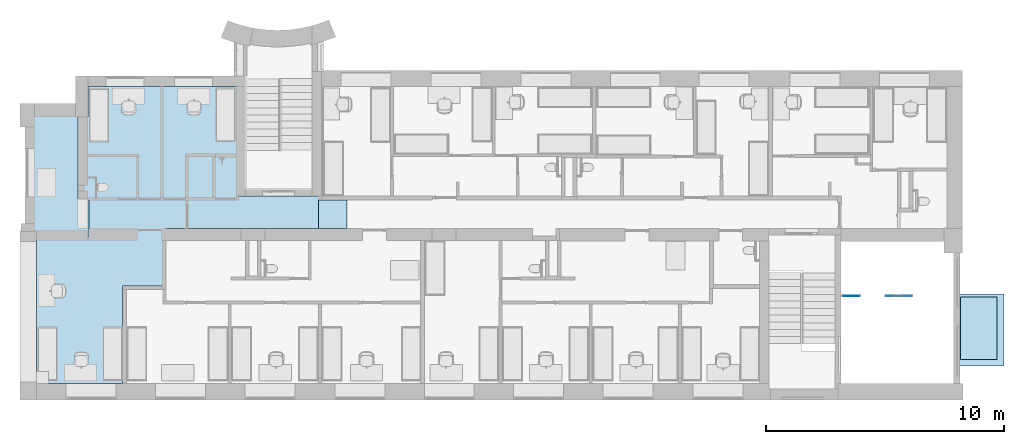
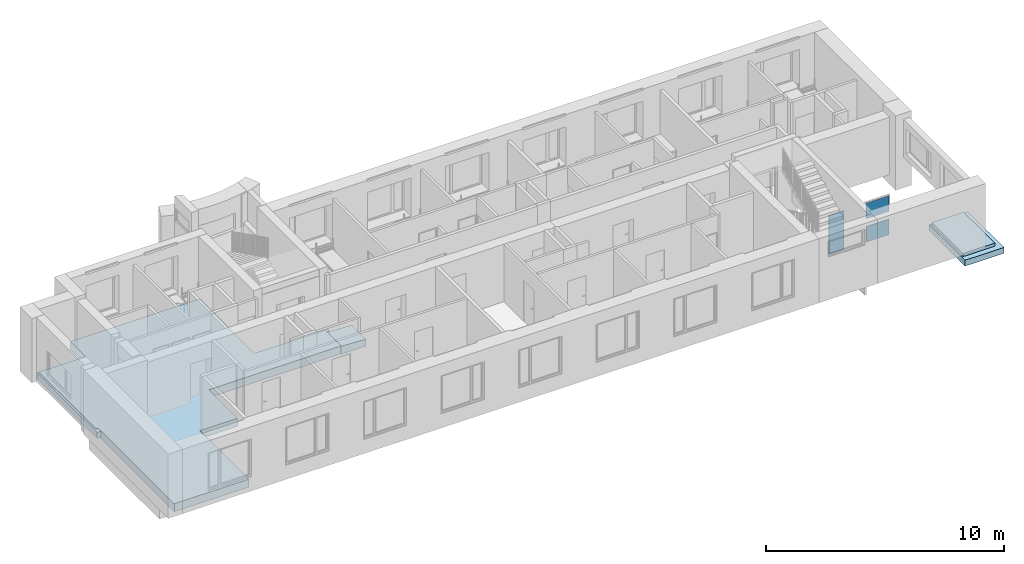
# One storey, part 2 of 46: 5 slabs, 3 plates, 2 elements without a shape of their own.
"""IFC2X3 building model written with IfcOpenShell, lengths in millimetres."""

from ifc_helpers import new_model, entity, si_unit, converted_unit, derived_unit, direction, frame, frame_2d, origin, origin_2d_with_axis, place, context, subcontext, project, spatial, polyline, rectangle, outline, extrude, clip, halfspace, source, transform, mapped, material, layer, layer_set, layer_usage, type_object, type_shapes, element, aggregate, save


model = new_model("IFC2X3")

# Units and contexts
model_context = context("Model", 3, precision=0.01, world=origin(), true_north=direction((6.12303176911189e-17, 1.0)))
body_context = subcontext(model_context, "Body", "Model", "MODEL_VIEW")
ifc_project = project(units=[si_unit("LENGTHUNIT", "METRE", prefix="MILLI"), si_unit("AREAUNIT", "SQUARE_METRE"), si_unit("VOLUMEUNIT", "CUBIC_METRE"), converted_unit("PLANEANGLEUNIT", "DEGREE", entity("IfcRatioMeasure", 0.0174532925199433), si_unit("PLANEANGLEUNIT", "RADIAN"), dimensions=[0, 0, 0, 0, 0, 0, 0]), si_unit("MASSUNIT", "GRAM", prefix="KILO"), derived_unit("MASSDENSITYUNIT", [(si_unit("MASSUNIT", "GRAM", prefix="KILO"), 1), (si_unit("LENGTHUNIT", "METRE"), -3)]), si_unit("TIMEUNIT", "SECOND"), si_unit("FREQUENCYUNIT", "HERTZ"), si_unit("THERMODYNAMICTEMPERATUREUNIT", "DEGREE_CELSIUS"), derived_unit("THERMALTRANSMITTANCEUNIT", [(si_unit("MASSUNIT", "GRAM", prefix="KILO"), 1), (si_unit("THERMODYNAMICTEMPERATUREUNIT", "KELVIN"), -1), (si_unit("TIMEUNIT", "SECOND"), -3)]), derived_unit("VOLUMETRICFLOWRATEUNIT", [(si_unit("LENGTHUNIT", "METRE"), 3), (si_unit("TIMEUNIT", "SECOND"), -1)]), si_unit("ELECTRICCURRENTUNIT", "AMPERE"), si_unit("ELECTRICVOLTAGEUNIT", "VOLT"), si_unit("POWERUNIT", "WATT"), si_unit("FORCEUNIT", "NEWTON", prefix="KILO"), si_unit("ILLUMINANCEUNIT", "LUX"), si_unit("LUMINOUSFLUXUNIT", "LUMEN"), si_unit("LUMINOUSINTENSITYUNIT", "CANDELA"), derived_unit("USERDEFINED", [(si_unit("MASSUNIT", "GRAM", prefix="KILO"), -1), (si_unit("LENGTHUNIT", "METRE"), -2), (si_unit("TIMEUNIT", "SECOND"), 3), (si_unit("LUMINOUSFLUXUNIT", "LUMEN"), 1)]), derived_unit("LINEARVELOCITYUNIT", [(si_unit("LENGTHUNIT", "METRE"), 1), (si_unit("TIMEUNIT", "SECOND"), -1)]), si_unit("PRESSUREUNIT", "PASCAL"), derived_unit("USERDEFINED", [(si_unit("LENGTHUNIT", "METRE"), -2), (si_unit("MASSUNIT", "GRAM", prefix="KILO"), 1), (si_unit("TIMEUNIT", "SECOND"), -2)]), derived_unit("LINEARFORCEUNIT", [(si_unit("MASSUNIT", "GRAM", prefix="KILO"), 1), (si_unit("LENGTHUNIT", "METRE"), 1), (si_unit("TIMEUNIT", "SECOND"), -2), (si_unit("LENGTHUNIT", "METRE"), -1)]), derived_unit("PLANARFORCEUNIT", [(si_unit("MASSUNIT", "GRAM", prefix="KILO"), 1), (si_unit("LENGTHUNIT", "METRE"), 1), (si_unit("TIMEUNIT", "SECOND"), -2), (si_unit("LENGTHUNIT", "METRE"), -2)])], contexts=[model_context])

# Site, building, storey
site_placement = place(None, origin())
site = spatial("IfcSite", under=ifc_project, at=site_placement, Name="Default", CompositionType="ELEMENT")
building_placement = place(site_placement, origin())
building = spatial("IfcBuilding", under=site, at=building_placement, Name="SMA ARH", CompositionType="ELEMENT")
storey_placement = place(building_placement, origin())
storey = spatial("IfcBuildingStorey", under=building, at=storey_placement, Name="1 Korrus", CompositionType="ELEMENT", Elevation=0.0)

# Slab
ifc_material_1 = material(Name="EST. Betoon. Armeeritud. Kohtvalu")
ifc_layer_1 = layer(ifc_material_1, 60.0)
ifc_material_2 = material(Name="EST. Soojustus. Mineraalvill. Default")
ifc_layer_2 = layer(ifc_material_2, 30.0)
ifc_material_3 = material(Name="EST. Puistematerjal. Kergkruus")
ifc_layer_3 = layer(ifc_material_3, 100.0)
ifc_material_4 = material(Name="EST. Betoon. Armeeritud. Monteeritav(1)")
ifc_layer_4 = layer(ifc_material_4, 220.0)
ifc_layer_set_1 = layer_set([ifc_layer_1, ifc_layer_2, ifc_layer_3, ifc_layer_4], Name="Floor:VL-00_R/B 370mm 1 k 1")
ifc_layer_usage_1 = layer_usage(ifc_layer_set_1, "AXIS3", "POSITIVE", 0.0)
slab_type_1 = type_object("IfcSlabType", Name="Floor:VL-00_R/B 370mm 1 k 1", PredefinedType="FLOOR", material=ifc_layer_set_1)
slab_1_placement = place(storey_placement, origin())
element("IfcSlab", 1, at=slab_1_placement, inside=storey, type_object=slab_type_1, material=ifc_layer_usage_1, Name="Floor:VL-00_R/B 370mm 1 k 1", ObjectType="Floor:VL-00_R/B 370mm 1 k 1", PredefinedType="FLOOR", context=body_context, shape_type="SweptSolid", body=[
    extrude(outline(polyline([(-615.994130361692, -5529.31249999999), (4174.00586963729, -5529.31249999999), (4174.00586963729, -3264.3125), (5450.20891253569, -3264.3125), (5450.20891253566, 3000.68750000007), (829.005869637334, 3000.68750000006), (829.005869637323, 6570.68750000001), (674.005869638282, 6570.68750000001), (674.005869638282, 6441.93750000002), (-525.994130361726, 6441.93750000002), (-525.994130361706, 15.6875000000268), (-2939.24413036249, 15.6875000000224), (-2939.24413036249, -1806.06250000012), (-7045.99413036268, -1806.06250000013), (-7045.99413036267, -5429.3125), (-615.994130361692, -5429.31249999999), (-615.994130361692, -5529.31249999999)])), frame((5429.31250000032, 7045.99413036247, 80.0), z_axis=(0.0, 0.0, -1.0), x_axis=(0.0, 1.0, 0.0)), (0.0, 0.0, 1.0), 410.0),
])

# Curtain wall, plates
curtain_wall_type = type_object("IfcCurtainWallType", Name="Curtain Wall:Curtain Wall SKF-02", PredefinedType="NOTDEFINED")
curtain_wall_1_placement = place(storey_placement, origin())
curtain_wall_1 = element("IfcCurtainWall", 2, at=curtain_wall_1_placement, inside=storey, type_object=curtain_wall_type, Name="Curtain Wall:Curtain Wall SKF-02", ObjectType="Curtain Wall:Curtain Wall SKF-02")
plate_type_1 = type_object("IfcPlateType", Name="System Panel:Glazed", PredefinedType="CURTAIN_PANEL")
shared_shape_1 = source(origin(), body_context, "Body", "SweptSolid", [
    extrude(rectangle(XDim=800.000000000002, YDim=1080.0, at=frame_2d((0.0, -2.1600499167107e-12), x_axis=(1.0, 0.0))), frame((0.0, -28.0, 400.0), z_axis=(0.0, 1.0, 0.0), x_axis=(0.0, 0.0, 1.0)), (0.0, 0.0, 1.0), 28.0),
])
type_shapes(plate_type_1, [shared_shape_1])
plate_1_placement = place(curtain_wall_1_placement, frame((36280.0, 3695.0, -1220.0)))
plate_1 = element("IfcPlate", 3, at=plate_1_placement, type_object=plate_type_1, Name="System Panel:Glazed", ObjectType="System Panel:Glazed", context=body_context, shape_type="MappedRepresentation", body=[
    mapped(shared_shape_1, transform((0.0, 0.0, 0.0), scale=1.0)),
])
plate_2_placement = place(curtain_wall_1_placement, frame((36280.0, 3695.0, -20.0)))
plate_2 = element("IfcPlate", 4, at=plate_2_placement, type_object=plate_type_1, Name="System Panel:Glazed", ObjectType="System Panel:Glazed", context=body_context, shape_type="MappedRepresentation", body=[
    mapped(shared_shape_1, transform((0.0, 0.0, 0.0), scale=1.0)),
])
aggregate(curtain_wall_1, [plate_1, plate_2])

# Slabs
ifc_layer_5 = layer(ifc_material_1, 60.0)
ifc_layer_6 = layer(ifc_material_2, 30.0)
ifc_layer_7 = layer(ifc_material_4, 220.0)
ifc_layer_set_2 = layer_set([ifc_layer_5, ifc_layer_6, ifc_layer_7], Name="Floor:VL-00_R/B 370mm 2 k 3")
ifc_layer_usage_2 = layer_usage(ifc_layer_set_2, "AXIS3", "POSITIVE", 0.0)
slab_type_2 = type_object("IfcSlabType", Name="Floor:VL-00_R/B 370mm 2 k 3", PredefinedType="FLOOR", material=ifc_layer_set_2)
slab_2_placement = place(storey_placement, origin())
element("IfcSlab", 5, at=slab_2_placement, inside=storey, type_object=slab_type_2, material=ifc_layer_usage_2, Name="Floor:VL-00_R/B 370mm 2 k 3", ObjectType="Floor:VL-00_R/B 370mm 2 k 3", PredefinedType="FLOOR", context=body_context, shape_type="SweptSolid", body=[
    extrude(outline(polyline([(-2196.66666666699, -1438.33333333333), (2873.33333333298, -1438.33333333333), (2873.33333333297, 486.666666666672), (-676.666666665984, 486.666666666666), (-676.666666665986, 951.666666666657), (-2196.66666666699, 951.666666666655), (-2196.66666666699, -1438.33333333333)])), frame((1258.33333333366, 8376.6666666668, 55.0), z_axis=(0.0, 0.0, -1.0), x_axis=(0.0, 1.0, 0.0)), (0.0, 0.0, 1.0), 310.0),
])
ifc_layer_8 = layer(ifc_material_4, 300.0)
ifc_layer_set_3 = layer_set([ifc_layer_8], Name="Floor:Generic 200mm")
ifc_layer_usage_3 = layer_usage(ifc_layer_set_3, "AXIS3", "POSITIVE", 0.0)
slab_type_3 = type_object("IfcSlabType", Name="Floor:Generic 200mm", PredefinedType="FLOOR", material=ifc_layer_set_3)
slab_3_placement = place(storey_placement, origin())
element("IfcSlab", 6, at=slab_3_placement, inside=storey, type_object=slab_type_3, material=ifc_layer_usage_3, Name="Floor:Generic 200mm", ObjectType="Floor:Generic 200mm", PredefinedType="FLOOR", context=body_context, shape_type="SweptSolid", body=[
    extrude(rectangle(XDim=2630.41190122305, YDim=1549.09900086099, at=frame_2d((-1.13686837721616e-13, 2.1600499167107e-12), x_axis=(1.0, 0.0))), frame((39654.5495004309, 2319.20424903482, -1294.55060141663), z_axis=(0.0, 0.0, -1.0), x_axis=(0.0, 1.0, 0.0)), (0.0, 0.0, 1.0), 300.0),
])
ifc_layer_usage_4 = layer_usage(ifc_layer_set_3, "AXIS3", "POSITIVE", 0.0)
slab_type_4 = type_object("IfcSlabType", Name="Floor:Generic 200mm", PredefinedType="FLOOR", material=ifc_layer_set_3)
slab_4_placement = place(storey_placement, origin())
element("IfcSlab", 7, at=slab_4_placement, inside=storey, type_object=slab_type_4, material=ifc_layer_usage_4, Name="Floor:Generic 200mm", ObjectType="Floor:Generic 200mm", PredefinedType="FLOOR", context=body_context, shape_type="SweptSolid", body=[
    extrude(rectangle(XDim=3029.41190122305, YDim=1895.99797236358, at=frame_2d((1.13686837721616e-13, 0.0), x_axis=(1.0, 0.0))), frame((39772.0979870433, 2244.70424903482, -1450.94999999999), z_axis=(0.0, 0.0, -1.0), x_axis=(0.0, 1.0, 0.0)), (0.0, 0.0, 1.0), 300.0),
])
ifc_layer_9 = layer(ifc_material_1, 60.0)
ifc_layer_10 = layer(ifc_material_2, 30.0)
ifc_layer_11 = layer(ifc_material_3, 40.0)
ifc_layer_12 = layer(ifc_material_4, 220.0)
ifc_layer_set_4 = layer_set([ifc_layer_9, ifc_layer_10, ifc_layer_11, ifc_layer_12], Name="Floor:VL-00_R/B 370mm 1 k 2")
ifc_layer_usage_5 = layer_usage(ifc_layer_set_4, "AXIS3", "POSITIVE", 0.0)
slab_type_5 = type_object("IfcSlabType", Name="Floor:VL-00_R/B 370mm 1 k 2", PredefinedType="FLOOR", material=ifc_layer_set_4)
slab_5_placement = place(storey_placement, origin())
element("IfcSlab", 8, at=slab_5_placement, inside=storey, type_object=slab_type_5, material=ifc_layer_usage_5, Name="Floor:VL-00_R/B 370mm 1 k 2", ObjectType="Floor:VL-00_R/B 370mm 1 k 2", PredefinedType="FLOOR", context=body_context, shape_type="Clipping", body=[
    clip(clip(extrude(rectangle(XDim=1201.49906367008, YDim=1199.99999999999, at=frame_2d((5.6843418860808e-13, 1.08002495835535e-12), x_axis=(0.0, 1.0))), frame((12470.2500000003, 7120.0, 30.0), z_axis=(-0.0499376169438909, 0.0, -0.998752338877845), x_axis=(0.0, 1.0, 0.0)), (0.0, 0.0499376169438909, 0.998752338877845), 410.512180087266), halfspace(frame((11870.2500000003, 6520.0, -350.0), z_axis=(0.0, 0.0, -1.0), x_axis=(-1.0, 0.0, 0.0)), False)), halfspace(frame((12470.2500000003, 7120.0, 30.0), z_axis=(0.0499376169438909, 0.0, 0.998752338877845), x_axis=(-0.998752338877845, 0.0, 0.0499376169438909)), False)),
])

# Curtain wall, plate
curtain_wall_2_placement = place(storey_placement, origin())
curtain_wall_2 = element("IfcCurtainWall", 9, at=curtain_wall_2_placement, inside=storey, type_object=curtain_wall_type, Name="Curtain Wall:Curtain Wall SKF-02", ObjectType="Curtain Wall:Curtain Wall SKF-02")
plate_type_2 = type_object("IfcPlateType", Name="System Panel:Glazed", PredefinedType="CURTAIN_PANEL")
shared_shape_2 = source(origin(), body_context, "Body", "SweptSolid", [
    extrude(rectangle(XDim=28.0, YDim=724.999999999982, at=origin_2d_with_axis()), frame((0.0, 14.0, 0.0), z_axis=(0.0, 0.0, 1.0), x_axis=(0.0, 1.0, 0.0)), (0.0, 0.0, 1.0), 1999.99999999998),
])
type_shapes(plate_type_2, [shared_shape_2])
plate_3_placement = place(curtain_wall_2_placement, frame((34277.5000000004, 3695.0, -1220.0), z_axis=(0.0, 0.0, 1.0), x_axis=(-1.0, 0.0, 0.0)))
plate_3 = element("IfcPlate", 10, at=plate_3_placement, type_object=plate_type_2, Name="System Panel:Glazed", ObjectType="System Panel:Glazed", context=body_context, shape_type="MappedRepresentation", body=[
    mapped(shared_shape_2, transform((0.0, 0.0, 0.0), scale=1.0)),
])
aggregate(curtain_wall_2, [plate_3])

save(model, "model.ifc")
